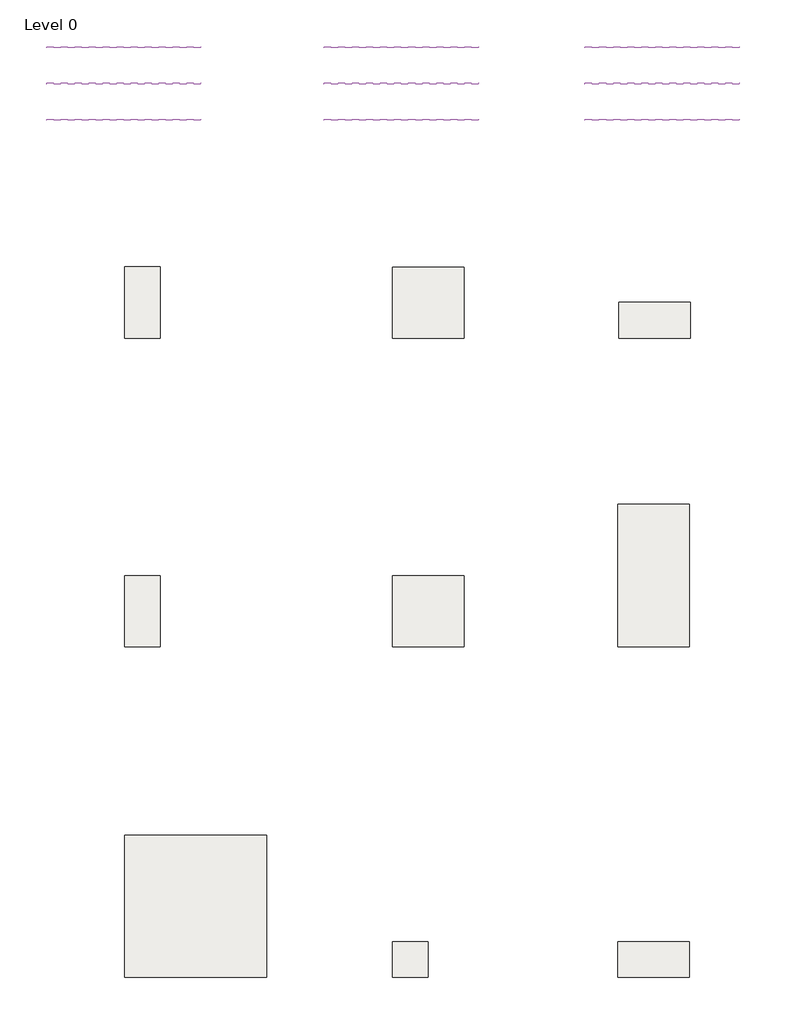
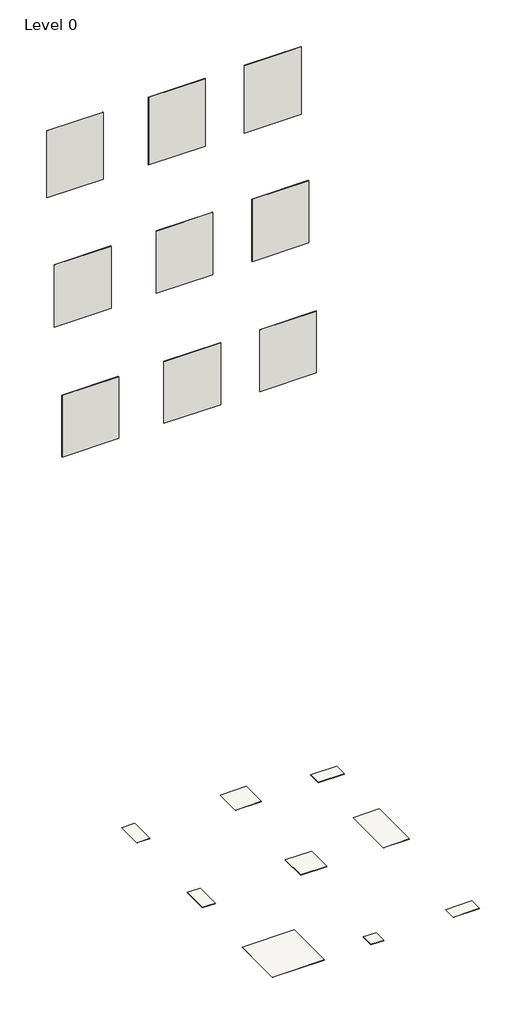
# One storey: 9 slabs, 9 walls.
"""IFC4 building model written with IfcOpenShell, lengths in millimetres."""

from ifc_helpers import new_model, si_unit, frame, origin, place, context, project, spatial, polyline, outline, extrude, element, save

model = new_model("IFC4")

# Units and contexts
model_context = context("Model", 3, world=origin())
ifc_project = project(units=[si_unit("LENGTHUNIT", "METRE", prefix="MILLI")], contexts=[model_context])

# Site, building, storey
site = spatial("IfcSite", under=ifc_project)
building = spatial("IfcBuilding", under=site)
storey = spatial("IfcBuildingStorey", under=building, Name="Level 0", Elevation=0.0)

# Slabs
placement = place(None, origin())
element("IfcSlab", 1, ObjectType="Floor_Tiles_Refin-Tune-Snow-Muretto-3D-30x60 MK50", at=placement, inside=storey, context=model_context, shape_type="SweptSolid", body=[
    extrude(outline(polyline([(11343.962679, 5989.4623743), (11343.962679, 5689.4623743), (10743.962679, 5689.4623743), (10743.962679, 5989.4623743), (11343.962679, 5989.4623743)])), frame((0.0, 0.0, -11.0), z_axis=(0.0, 0.0, 1.0), x_axis=(1.0, 0.0, 0.0)), (0.0, 0.0, 1.0), 11.0),
])
element("IfcSlab", 2, ObjectType="Floor_Tiles_Refin-Tune-Snow-30x60 NB11", at=placement, inside=storey, context=model_context, shape_type="SweptSolid", body=[
    extrude(outline(polyline([(6874.3752062, 6289.4623743), (6874.3752062, 5689.4623743), (6574.3752062, 5689.4623743), (6574.3752062, 6289.4623743), (6874.3752062, 6289.4623743)])), frame((0.0, 0.0, -10.0), z_axis=(0.0, 0.0, 1.0), x_axis=(1.0, 0.0, 0.0)), (0.0, 0.0, 1.0), 10.0),
])
element("IfcSlab", 3, ObjectType="Floor_Tiles_Refin-Tune-Snow-60x60 NB23", at=placement, inside=storey, context=model_context, shape_type="SweptSolid", body=[
    extrude(outline(polyline([(9434.1689426, 6288.4192064), (9434.1689426, 5688.4192064), (8834.1689426, 5688.4192064), (8834.1689426, 6288.4192064), (9434.1689426, 6288.4192064)])), frame((0.0, 0.0, -10.0), z_axis=(0.0, 0.0, 1.0), x_axis=(1.0, 0.0, 0.0)), (0.0, 0.0, 1.0), 10.0),
])
element("IfcSlab", 4, ObjectType="Floor_Tiles_Refin-Tune-Snow-Soft-60x120 NA90", at=placement, inside=storey, context=model_context, shape_type="SweptSolid", body=[
    extrude(outline(polyline([(11334.1689426, 4289.4623743), (11334.1689426, 3089.4623743), (10734.1689426, 3089.4623743), (10734.1689426, 4289.4623743), (11334.1689426, 4289.4623743)])), frame((0.0, 0.0, -10.0), z_axis=(0.0, 0.0, 1.0), x_axis=(1.0, 0.0, 0.0)), (0.0, 0.0, 1.0), 10.0),
])
element("IfcSlab", 5, ObjectType="Floor_Tiles_Refin-Tune-Snow-Soft-30x60 NB12", at=placement, inside=storey, context=model_context, shape_type="SweptSolid", body=[
    extrude(outline(polyline([(6874.3752062, 3689.4623743), (6874.3752062, 3089.4623743), (6574.3752062, 3089.4623743), (6574.3752062, 3689.4623743), (6874.3752062, 3689.4623743)])), frame((0.0, 0.0, -10.0), z_axis=(0.0, 0.0, 1.0), x_axis=(1.0, 0.0, 0.0)), (0.0, 0.0, 1.0), 10.0),
])
element("IfcSlab", 6, ObjectType="Floor_Tiles_Refin-Tune-Snow-Mosaico-Soft-30x30 NA44", at=placement, inside=storey, context=model_context, shape_type="SweptSolid", body=[
    extrude(outline(polyline([(9134.1689426, 603.4367235), (9134.1689426, 303.4367235), (8834.1689426, 303.4367235), (8834.1689426, 603.4367235), (9134.1689426, 603.4367235)])), frame((0.0, 0.0, -10.0), z_axis=(0.0, 0.0, 1.0), x_axis=(1.0, 0.0, 0.0)), (0.0, 0.0, 1.0), 10.0),
])
element("IfcSlab", 7, ObjectType="Floor_Tiles_Refin-Tune-Snow-Soft-60x60 NB24", at=placement, inside=storey, context=model_context, shape_type="SweptSolid", body=[
    extrude(outline(polyline([(9434.1689426, 3689.4623743), (9434.1689426, 3089.4623743), (8834.1689426, 3089.4623743), (8834.1689426, 3689.4623743), (9434.1689426, 3689.4623743)])), frame((0.0, 0.0, -10.0), z_axis=(0.0, 0.0, 1.0), x_axis=(1.0, 0.0, 0.0)), (0.0, 0.0, 1.0), 10.0),
])
element("IfcSlab", 8, ObjectType="Floor_Tiles_Refin-Tune-Snow-Soft-120x120 MK17", at=placement, inside=storey, context=model_context, shape_type="SweptSolid", body=[
    extrude(outline(polyline([(7774.3752062, 1503.4367235), (7774.3752062, 303.4367235), (6574.3752062, 303.4367235), (6574.3752062, 1503.4367235), (7774.3752062, 1503.4367235)])), frame((0.0, 0.0, -10.0), z_axis=(0.0, 0.0, 1.0), x_axis=(1.0, 0.0, 0.0)), (0.0, 0.0, 1.0), 10.0),
])
element("IfcSlab", 9, ObjectType="Floor_Tiles_Refin-Tune-Snow-Mosaico-Linea-Soft-30x60 NA23", at=placement, inside=storey, context=model_context, shape_type="SweptSolid", body=[
    extrude(outline(polyline([(11334.1689426, 603.4367235), (11334.1689426, 303.4367235), (10734.1689426, 303.4367235), (10734.1689426, 603.4367235), (11334.1689426, 603.4367235)])), frame((0.0, 0.0, -10.0), z_axis=(0.0, 0.0, 1.0), x_axis=(1.0, 0.0, 0.0)), (0.0, 0.0, 1.0), 10.0),
])

# Walls
element("IfcWall", 10, ObjectType="Wall_Tiles_Refin-Tune-Snow-60x60 NB23", at=placement, inside=storey, context=model_context, shape_type="SweptSolid", body=[
    extrude(outline(polyline([(9557.3752062, 8132.3838631), (8257.3752062, 8132.3838631), (8257.3752062, 8142.3838631), (9557.3752062, 8142.3838631), (9557.3752062, 8132.3838631)])), frame((0.0, 0.0, 14387.6770443), z_axis=(0.0, 0.0, 1.0), x_axis=(1.0, 0.0, 0.0)), (0.0, 0.0, 1.0), 1641.7417352),
])
element("IfcWall", 11, ObjectType="Wall_Tiles_Refin-Tune-Snow-Muretto-3D-30x60 MK50", at=placement, inside=storey, context=model_context, shape_type="SweptSolid", body=[
    extrude(outline(polyline([(11757.3752062, 8131.8838631), (10457.3752062, 8131.8838631), (10457.3752062, 8142.8838631), (11757.3752062, 8142.8838631), (11757.3752062, 8131.8838631)])), frame((0.0, 0.0, 14387.6770443), z_axis=(0.0, 0.0, 1.0), x_axis=(1.0, 0.0, 0.0)), (0.0, 0.0, 1.0), 1641.7417352),
])
element("IfcWall", 12, ObjectType="Wall_Tiles_Refin-Tune-Snow-30x60 NB11", at=placement, inside=storey, context=model_context, shape_type="SweptSolid", body=[
    extrude(outline(polyline([(7217.3752062, 8132.3838631), (5917.3752062, 8132.3838631), (5917.3752062, 8142.3838631), (7217.3752062, 8142.3838631), (7217.3752062, 8132.3838631)])), frame((0.0, 0.0, 14403.7267346), z_axis=(0.0, 0.0, 1.0), x_axis=(1.0, 0.0, 0.0)), (0.0, 0.0, 1.0), 1625.692045),
])
element("IfcWall", 13, ObjectType="Wall_Tiles_Refin-Tune-Snow-Soft-30x60 NB12", at=placement, inside=storey, context=model_context, shape_type="SweptSolid", body=[
    extrude(outline(polyline([(7217.3752062, 7827.3838631), (5917.3752062, 7827.3838631), (5917.3752062, 7837.3838631), (7217.3752062, 7837.3838631), (7217.3752062, 7827.3838631)])), frame((0.0, 0.0, 11452.5436262), z_axis=(0.0, 0.0, 1.0), x_axis=(1.0, 0.0, 0.0)), (0.0, 0.0, 1.0), 1513.1985566),
])
element("IfcWall", 14, ObjectType="Wall_Tiles_Refin-Tune-Snow-Soft-60x60 NB24", at=placement, inside=storey, context=model_context, shape_type="SweptSolid", body=[
    extrude(outline(polyline([(9557.3752062, 7827.3838631), (8257.3752062, 7827.3838631), (8257.3752062, 7837.3838631), (9557.3752062, 7837.3838631), (9557.3752062, 7827.3838631)])), frame((0.0, 0.0, 11452.5436262), z_axis=(0.0, 0.0, 1.0), x_axis=(1.0, 0.0, 0.0)), (0.0, 0.0, 1.0), 1513.1985566),
])
element("IfcWall", 15, ObjectType="Wall_Tiles_Refin-Tune-Snow-Soft-60x120 NA90", at=placement, inside=storey, context=model_context, shape_type="SweptSolid", body=[
    extrude(outline(polyline([(11757.3752062, 7827.3838631), (10457.3752062, 7827.3838631), (10457.3752062, 7837.3838631), (11757.3752062, 7837.3838631), (11757.3752062, 7827.3838631)])), frame((0.0, 0.0, 11452.5436262), z_axis=(0.0, 0.0, 1.0), x_axis=(1.0, 0.0, 0.0)), (0.0, 0.0, 1.0), 1513.1985566),
])
element("IfcWall", 16, ObjectType="Wall_Tiles_Refin-Tune-Snow-Soft-120x120 MK17", at=placement, inside=storey, context=model_context, shape_type="SweptSolid", body=[
    extrude(outline(polyline([(7217.3752062, 7522.3838631), (5917.3752062, 7522.3838631), (5917.3752062, 7532.3838631), (7217.3752062, 7532.3838631), (7217.3752062, 7522.3838631)])), frame((0.0, 0.0, 8479.1027214), z_axis=(0.0, 0.0, 1.0), x_axis=(1.0, 0.0, 0.0)), (0.0, 0.0, 1.0), 1502.5740159),
])
element("IfcWall", 17, ObjectType="Wall_Tiles_Refin-Tune-Snow-Mosaico-Soft-30x30 NA44", at=placement, inside=storey, context=model_context, shape_type="SweptSolid", body=[
    extrude(outline(polyline([(9557.3752062, 7522.3838631), (8257.3752062, 7522.3838631), (8257.3752062, 7532.3838631), (9557.3752062, 7532.3838631), (9557.3752062, 7522.3838631)])), frame((0.0, 0.0, 8479.1027214), z_axis=(0.0, 0.0, 1.0), x_axis=(1.0, 0.0, 0.0)), (0.0, 0.0, 1.0), 1502.5740159),
])
element("IfcWall", 18, ObjectType="Wall_Tiles_Refin-Tune-Snow-Mosaico-Linea-Soft-30x60 NA23", at=placement, inside=storey, context=model_context, shape_type="SweptSolid", body=[
    extrude(outline(polyline([(11757.3752062, 7522.3838631), (10457.3752062, 7522.3838631), (10457.3752062, 7532.3838631), (11757.3752062, 7532.3838631), (11757.3752062, 7522.3838631)])), frame((0.0, 0.0, 8479.1027214), z_axis=(0.0, 0.0, 1.0), x_axis=(1.0, 0.0, 0.0)), (0.0, 0.0, 1.0), 1502.5740159),
])

save(model, "model.ifc")
